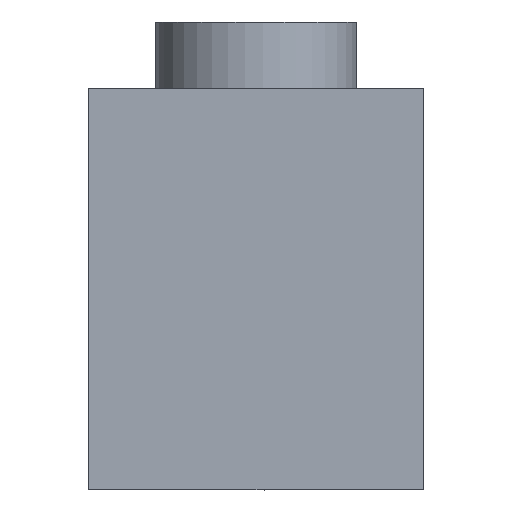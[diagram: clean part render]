
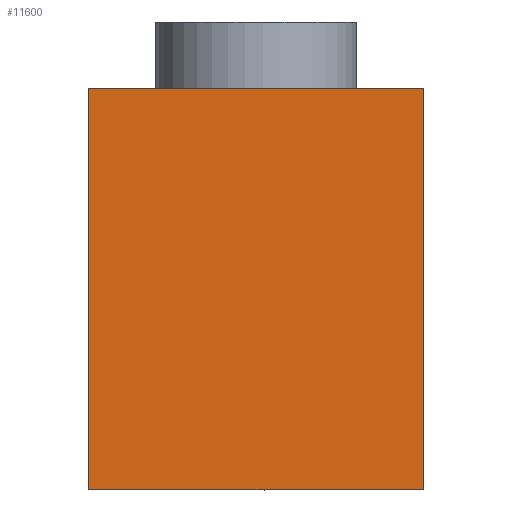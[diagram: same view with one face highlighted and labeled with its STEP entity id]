
A CAD part, left-side view. The second image highlights one B-rep face of the part: STEP entity #11600.
In plain terms, the highlighted planar face has unit normal (-1, 0, 0).
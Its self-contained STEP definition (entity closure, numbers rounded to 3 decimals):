
#5113 = PLANE('',#5114);
#5114 = AXIS2_PLACEMENT_3D('',#5115,#5116,#5117);
#5115 = CARTESIAN_POINT('',(0.,0.,0.));
#5116 = DIRECTION('',(0.,0.,1.));
#5117 = DIRECTION('',(0.,1.,0.));
#6101 = EDGE_CURVE('',#6102,#6104,#6106,.T.);
#6102 = VERTEX_POINT('',#6103);
#6103 = CARTESIAN_POINT('',(-16.,-4.,0.));
#6104 = VERTEX_POINT('',#6105);
#6105 = CARTESIAN_POINT('',(-16.,4.,0.));
#6106 = SURFACE_CURVE('',#6107,(#6111,#6118),.PCURVE_S1.);
#6107 = LINE('',#6108,#6109);
#6108 = CARTESIAN_POINT('',(-16.,-4.,0.));
#6109 = VECTOR('',#6110,1.);
#6110 = DIRECTION('',(0.,1.,0.));
#6111 = PCURVE('',#5113,#6112);
#6112 = DEFINITIONAL_REPRESENTATION('',(#6113),#6117);
#6113 = LINE('',#6114,#6115);
#6114 = CARTESIAN_POINT('',(-4.,16.));
#6115 = VECTOR('',#6116,1.);
#6116 = DIRECTION('',(1.,0.));
#6117 = ( GEOMETRIC_REPRESENTATION_CONTEXT(2) 
PARAMETRIC_REPRESENTATION_CONTEXT() REPRESENTATION_CONTEXT('2D SPACE',''
  ) );
#6118 = PCURVE('',#6119,#6124);
#6119 = PLANE('',#6120);
#6120 = AXIS2_PLACEMENT_3D('',#6121,#6122,#6123);
#6121 = CARTESIAN_POINT('',(-16.,0.,4.8));
#6122 = DIRECTION('',(1.,0.,0.));
#6123 = DIRECTION('',(0.,0.,1.));
#6124 = DEFINITIONAL_REPRESENTATION('',(#6125),#6129);
#6125 = LINE('',#6126,#6127);
#6126 = CARTESIAN_POINT('',(-4.8,4.));
#6127 = VECTOR('',#6128,1.);
#6128 = DIRECTION('',(0.,-1.));
#6129 = ( GEOMETRIC_REPRESENTATION_CONTEXT(2) 
PARAMETRIC_REPRESENTATION_CONTEXT() REPRESENTATION_CONTEXT('2D SPACE',''
  ) );
#6147 = PLANE('',#6148);
#6148 = AXIS2_PLACEMENT_3D('',#6149,#6150,#6151);
#6149 = CARTESIAN_POINT('',(0.005,4.,5.589));
#6150 = DIRECTION('',(0.,-1.,0.));
#6151 = DIRECTION('',(-0.,0.,1.));
#6201 = PLANE('',#6202);
#6202 = AXIS2_PLACEMENT_3D('',#6203,#6204,#6205);
#6203 = CARTESIAN_POINT('',(-0.005,-4.,5.589));
#6204 = DIRECTION('',(0.,1.,0.));
#6205 = DIRECTION('',(0.,0.,-1.));
#11600 = ADVANCED_FACE('',(#11601),#6119,.F.);
#11601 = FACE_BOUND('',#11602,.T.);
#11602 = EDGE_LOOP('',(#11603,#11626,#11654,#11675));
#11603 = ORIENTED_EDGE('',*,*,#11604,.F.);
#11604 = EDGE_CURVE('',#11605,#6102,#11607,.T.);
#11605 = VERTEX_POINT('',#11606);
#11606 = CARTESIAN_POINT('',(-16.,-4.,9.6));
#11607 = SURFACE_CURVE('',#11608,(#11612,#11619),.PCURVE_S1.);
#11608 = LINE('',#11609,#11610);
#11609 = CARTESIAN_POINT('',(-16.,-4.,9.6));
#11610 = VECTOR('',#11611,1.);
#11611 = DIRECTION('',(0.,0.,-1.));
#11612 = PCURVE('',#6119,#11613);
#11613 = DEFINITIONAL_REPRESENTATION('',(#11614),#11618);
#11614 = LINE('',#11615,#11616);
#11615 = CARTESIAN_POINT('',(4.8,4.));
#11616 = VECTOR('',#11617,1.);
#11617 = DIRECTION('',(-1.,0.));
#11618 = ( GEOMETRIC_REPRESENTATION_CONTEXT(2) 
PARAMETRIC_REPRESENTATION_CONTEXT() REPRESENTATION_CONTEXT('2D SPACE',''
  ) );
#11619 = PCURVE('',#6201,#11620);
#11620 = DEFINITIONAL_REPRESENTATION('',(#11621),#11625);
#11621 = LINE('',#11622,#11623);
#11622 = CARTESIAN_POINT('',(-4.011,15.995));
#11623 = VECTOR('',#11624,1.);
#11624 = DIRECTION('',(1.,0.));
#11625 = ( GEOMETRIC_REPRESENTATION_CONTEXT(2) 
PARAMETRIC_REPRESENTATION_CONTEXT() REPRESENTATION_CONTEXT('2D SPACE',''
  ) );
#11626 = ORIENTED_EDGE('',*,*,#11627,.F.);
#11627 = EDGE_CURVE('',#11628,#11605,#11630,.T.);
#11628 = VERTEX_POINT('',#11629);
#11629 = CARTESIAN_POINT('',(-16.,4.,9.6));
#11630 = SURFACE_CURVE('',#11631,(#11635,#11642),.PCURVE_S1.);
#11631 = LINE('',#11632,#11633);
#11632 = CARTESIAN_POINT('',(-16.,4.,9.6));
#11633 = VECTOR('',#11634,1.);
#11634 = DIRECTION('',(0.,-1.,0.));
#11635 = PCURVE('',#6119,#11636);
#11636 = DEFINITIONAL_REPRESENTATION('',(#11637),#11641);
#11637 = LINE('',#11638,#11639);
#11638 = CARTESIAN_POINT('',(4.8,-4.));
#11639 = VECTOR('',#11640,1.);
#11640 = DIRECTION('',(0.,1.));
#11641 = ( GEOMETRIC_REPRESENTATION_CONTEXT(2) 
PARAMETRIC_REPRESENTATION_CONTEXT() REPRESENTATION_CONTEXT('2D SPACE',''
  ) );
#11642 = PCURVE('',#11643,#11648);
#11643 = PLANE('',#11644);
#11644 = AXIS2_PLACEMENT_3D('',#11645,#11646,#11647);
#11645 = CARTESIAN_POINT('',(0.,0.,
    9.6));
#11646 = DIRECTION('',(0.,0.,1.));
#11647 = DIRECTION('',(0.,1.,0.));
#11648 = DEFINITIONAL_REPRESENTATION('',(#11649),#11653);
#11649 = LINE('',#11650,#11651);
#11650 = CARTESIAN_POINT('',(4.,16.));
#11651 = VECTOR('',#11652,1.);
#11652 = DIRECTION('',(-1.,0.));
#11653 = ( GEOMETRIC_REPRESENTATION_CONTEXT(2) 
PARAMETRIC_REPRESENTATION_CONTEXT() REPRESENTATION_CONTEXT('2D SPACE',''
  ) );
#11654 = ORIENTED_EDGE('',*,*,#11655,.T.);
#11655 = EDGE_CURVE('',#11628,#6104,#11656,.T.);
#11656 = SURFACE_CURVE('',#11657,(#11661,#11668),.PCURVE_S1.);
#11657 = LINE('',#11658,#11659);
#11658 = CARTESIAN_POINT('',(-16.,4.,9.6));
#11659 = VECTOR('',#11660,1.);
#11660 = DIRECTION('',(0.,0.,-1.));
#11661 = PCURVE('',#6119,#11662);
#11662 = DEFINITIONAL_REPRESENTATION('',(#11663),#11667);
#11663 = LINE('',#11664,#11665);
#11664 = CARTESIAN_POINT('',(4.8,-4.));
#11665 = VECTOR('',#11666,1.);
#11666 = DIRECTION('',(-1.,0.));
#11667 = ( GEOMETRIC_REPRESENTATION_CONTEXT(2) 
PARAMETRIC_REPRESENTATION_CONTEXT() REPRESENTATION_CONTEXT('2D SPACE',''
  ) );
#11668 = PCURVE('',#6147,#11669);
#11669 = DEFINITIONAL_REPRESENTATION('',(#11670),#11674);
#11670 = LINE('',#11671,#11672);
#11671 = CARTESIAN_POINT('',(4.011,16.005));
#11672 = VECTOR('',#11673,1.);
#11673 = DIRECTION('',(-1.,-0.));
#11674 = ( GEOMETRIC_REPRESENTATION_CONTEXT(2) 
PARAMETRIC_REPRESENTATION_CONTEXT() REPRESENTATION_CONTEXT('2D SPACE',''
  ) );
#11675 = ORIENTED_EDGE('',*,*,#6101,.F.);
